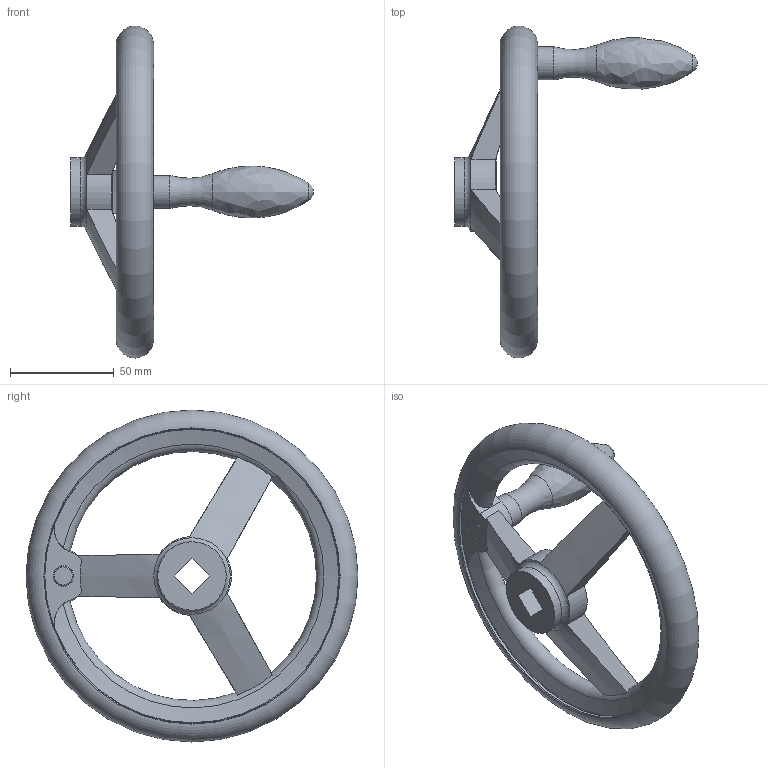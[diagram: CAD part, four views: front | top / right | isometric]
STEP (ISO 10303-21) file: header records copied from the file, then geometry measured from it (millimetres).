
FILE_DESCRIPTION( ( 'STEP AP203' ), '1' );
FILE_NAME( 'C:/Temp/Ganter_Step_05_03_2020/data/1_3/din_950/din_950_v/din_950_v_f/Handwheel DIN 950-AL-160-V12-F.stp', '2020-03-05T10:31:46', ( 'License CC BY-ND 4.0' ), ( 'CADENAS' ), ' ', 'PARTsolutions', ' ' );
FILE_SCHEMA( ( 'CONFIG_CONTROL_DESIGN' ) );
Length unit declared in the file: millimetre
Products named in the file (1): _Handwheel DIN 950-AL-160-V12-F
Bounding box: 117 x 159.99 x 159.99 mm (x, y, z)
Volume: 174093.3 mm3; surface area: 43538.7 mm2
Topology: 1 solids, 1 shells, 45 faces, 127 edges, 81 vertices
Faces by surface type: plane 15, cylinder 11, torus 11, cone 6, sphere 1, bspline 1
Full cylindrical faces by diameter (mm): 16 x1, 33 x2, 142 x2
Entity records: 1685 total; most frequent: CARTESIAN_POINT 617, DIRECTION 202, ORIENTED_EDGE 200, EDGE_CURVE 100, AXIS2_PLACEMENT_3D 90, VERTEX_POINT 75, EDGE_LOOP 69, FACE_OUTER_BOUND 59
